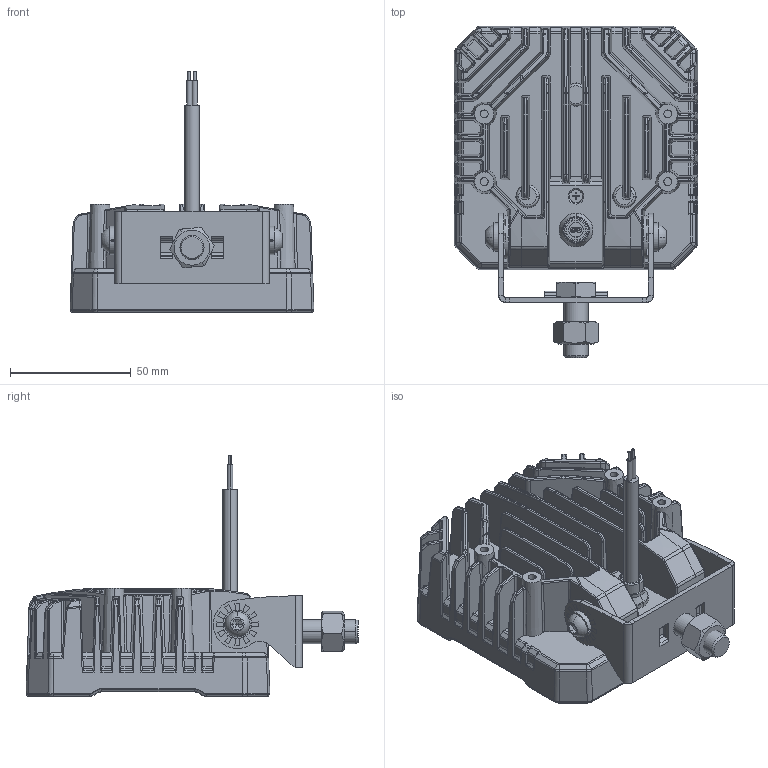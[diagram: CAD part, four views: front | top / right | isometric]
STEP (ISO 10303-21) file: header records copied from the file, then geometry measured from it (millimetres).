
FILE_DESCRIPTION (( 'STEP AP203' ), '1' );
FILE_NAME ('8654.STEP', '2021-04-03T01:46:04', ( 'XINGKONG' ), ( 'Microsoft' ), 'SwSTEP 2.0', 'SolidWorks 2012', '' );
FILE_SCHEMA (( 'CONFIG_CONTROL_DESIGN' ));
Products named in the file (14): 8654; 萇埭盄; M3X6十字沉头机牙螺钉; M3X6十字圆头自攻三角牙螺丝; 0.75通用胶塞; 8654盓殤郪璃; M6弹簧垫圈; hex nuts, style 2-grades ab gb_GB_HEXAGON_TYPE13 M10 Normal Style-N; hexagon head thread forming screws gb_GB_CROSS_SCREWS_TYPE141 M10X25-N; hexagon socket button head screws gb_GB_SOCKET_TYPE7 M6X12-N; 8654盓殤1.0; 8654蟀极醱欶1.0; 8654PCB1.0; 8654綴褲1.0
Assembly tree (17 placements, depth 3):
  8654
    8654綴褲1.0
    8654PCB1.0
    8654蟀极醱欶1.0
    8654盓殤郪璃
      8654盓殤1.0
      hexagon socket button head screws gb_GB_SOCKET_TYPE7 M6X12-N  x2
      hexagon head thread forming screws gb_GB_CROSS_SCREWS_TYPE141 M10X25-N
      hex nuts, style 2-grades ab gb_GB_HEXAGON_TYPE13 M10 Normal Style-N
      M6弹簧垫圈  x2
    0.75通用胶塞
    M3X6十字圆头自攻三角牙螺丝  x3
    M3X6十字沉头机牙螺钉
    萇埭盄
Bounding box: 100.91 x 137.4 x 100 mm (x, y, z)
Volume: 177930 mm3; surface area: 134155.9 mm2
Topology: 16 solids, 16 shells, 5643 faces, 15047 edges, 9741 vertices
Faces by surface type: plane 2858, bspline 1790, cylinder 815, cone 140, torus 36, sphere 4
Entity records: 327880 total; most frequent: CARTESIAN_POINT 206355, ORIENTED_EDGE 29502, DIRECTION 17773, EDGE_CURVE 14751, VERTEX_POINT 9556, VECTOR 7425, LINE 7425, EDGE_LOOP 5855
